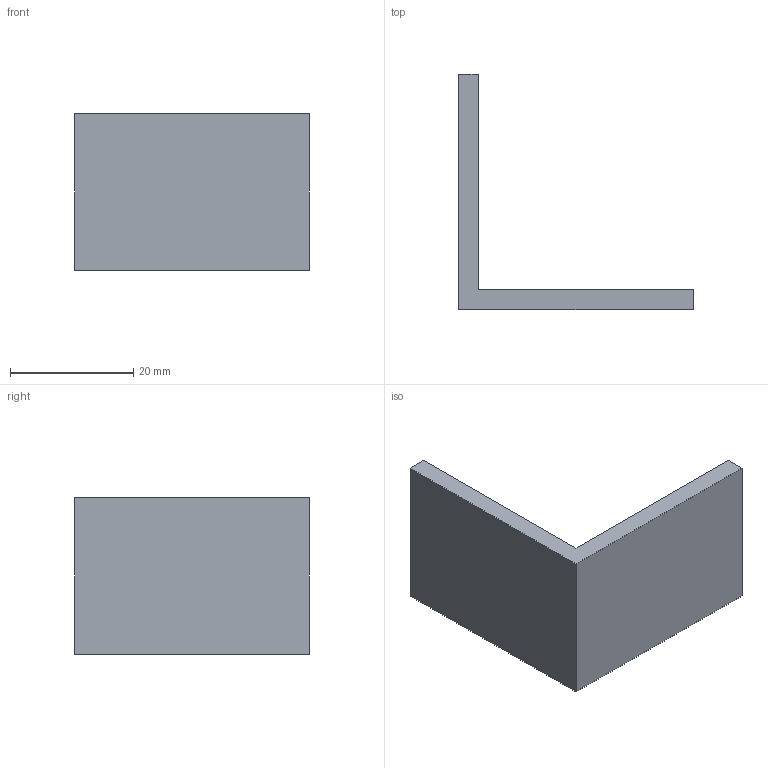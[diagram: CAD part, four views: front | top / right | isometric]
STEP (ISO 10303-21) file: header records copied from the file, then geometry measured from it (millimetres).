
FILE_DESCRIPTION((''),'2;1');
FILE_NAME('C:\Documents and Settings\Administrator\My Documents\Andys Backup Data\STEP LIBRARIES\MINITEC STEP LIBRARIES\ALUMINUM PROFILES\20.9005 Al Angle 1.5x1.5.stp','2010-12-21T14:36:56',('Administrator'),(''),'Autodesk Inventor 2009','Autodesk Inventor 2009','');
FILE_SCHEMA(('CONFIG_CONTROL_DESIGN'));
Length unit declared in the file: inch
Products named in the file (1): 20.9005 Al Angle 1.5x1.5
Bounding box: 38.1 x 38.1 x 25.4 mm (x, y, z)
Volume: 5889.1 mm3; surface area: 4334.7 mm2
Topology: 1 solids, 1 shells, 8 faces, 18 edges, 12 vertices
Faces by surface type: plane 8
Entity records: 241 total; most frequent: CARTESIAN_POINT 39, DIRECTION 36, ORIENTED_EDGE 36, VECTOR 18, LINE 18, EDGE_CURVE 18, VERTEX_POINT 12, AXIS2_PLACEMENT_3D 9
